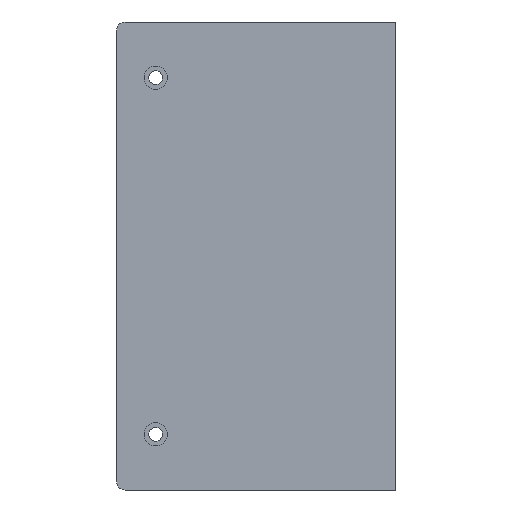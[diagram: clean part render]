
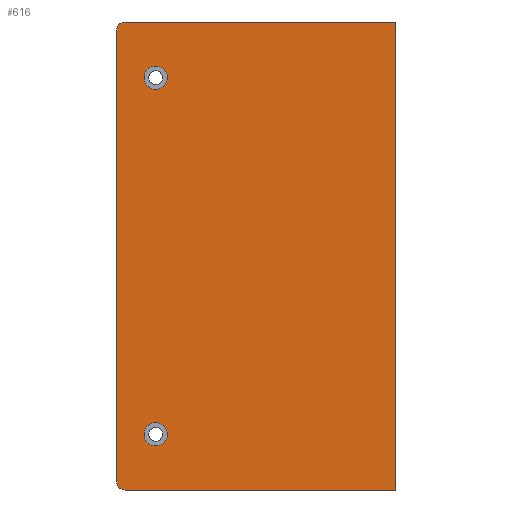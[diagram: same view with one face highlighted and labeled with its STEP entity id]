
A CAD part, left-side view. The second image highlights one B-rep face of the part: STEP entity #616.
In plain terms, the highlighted planar face has unit normal (-1, 0, 0).
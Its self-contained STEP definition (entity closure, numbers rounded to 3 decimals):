
#93=FACE_BOUND('',#172,.T.);
#94=FACE_BOUND('',#173,.T.);
#108=PLANE('',#690);
#135=FACE_OUTER_BOUND('',#171,.T.);
#171=EDGE_LOOP('',(#498,#499,#500,#501,#502,#503));
#172=EDGE_LOOP('',(#504));
#173=EDGE_LOOP('',(#505));
#217=LINE('',#981,#253);
#222=LINE('',#1000,#258);
#225=LINE('',#1005,#261);
#226=LINE('',#1007,#262);
#253=VECTOR('',#799,10.);
#258=VECTOR('',#818,10.);
#261=VECTOR('',#823,10.);
#262=VECTOR('',#824,10.);
#276=CIRCLE('',#660,2.1);
#278=CIRCLE('',#663,2.1);
#292=CIRCLE('',#688,1.5);
#293=CIRCLE('',#691,1.5);
#317=VERTEX_POINT('',#925);
#319=VERTEX_POINT('',#931);
#334=VERTEX_POINT('',#978);
#335=VERTEX_POINT('',#980);
#340=VERTEX_POINT('',#993);
#341=VERTEX_POINT('',#995);
#342=VERTEX_POINT('',#999);
#344=VERTEX_POINT('',#1006);
#366=EDGE_CURVE('',#317,#317,#276,.T.);
#369=EDGE_CURVE('',#319,#319,#278,.T.);
#392=EDGE_CURVE('',#335,#334,#217,.T.);
#399=EDGE_CURVE('',#340,#341,#292,.T.);
#401=EDGE_CURVE('',#341,#342,#222,.T.);
#404=EDGE_CURVE('',#335,#340,#225,.T.);
#405=EDGE_CURVE('',#344,#334,#226,.T.);
#406=EDGE_CURVE('',#342,#344,#293,.T.);
#498=ORIENTED_EDGE('',*,*,#399,.F.);
#499=ORIENTED_EDGE('',*,*,#404,.F.);
#500=ORIENTED_EDGE('',*,*,#392,.T.);
#501=ORIENTED_EDGE('',*,*,#405,.F.);
#502=ORIENTED_EDGE('',*,*,#406,.F.);
#503=ORIENTED_EDGE('',*,*,#401,.F.);
#504=ORIENTED_EDGE('',*,*,#366,.T.);
#505=ORIENTED_EDGE('',*,*,#369,.T.);
#616=ADVANCED_FACE('',(#135,#93,#94),#108,.T.);
#660=AXIS2_PLACEMENT_3D('',#927,#740,#741);
#663=AXIS2_PLACEMENT_3D('',#933,#747,#748);
#688=AXIS2_PLACEMENT_3D('',#996,#813,#814);
#690=AXIS2_PLACEMENT_3D('',#1004,#821,#822);
#691=AXIS2_PLACEMENT_3D('',#1008,#825,#826);
#740=DIRECTION('center_axis',(1.,0.,0.));
#741=DIRECTION('ref_axis',(0.,0.,-1.));
#747=DIRECTION('center_axis',(1.,0.,0.));
#748=DIRECTION('ref_axis',(0.,0.,-1.));
#799=DIRECTION('',(0.,0.,1.));
#813=DIRECTION('center_axis',(1.,0.,0.));
#814=DIRECTION('ref_axis',(0.,0.707,-0.707));
#818=DIRECTION('',(0.,0.,1.));
#821=DIRECTION('center_axis',(-1.,0.,0.));
#822=DIRECTION('ref_axis',(0.,-1.,0.));
#823=DIRECTION('',(0.,1.,0.));
#824=DIRECTION('',(0.,-1.,0.));
#825=DIRECTION('center_axis',(1.,0.,0.));
#826=DIRECTION('ref_axis',(0.,0.707,0.707));
#925=CARTESIAN_POINT('',(0.,43.,-29.9));
#927=CARTESIAN_POINT('Origin',(0.,43.,-32.));
#931=CARTESIAN_POINT('',(0.,43.,34.1));
#933=CARTESIAN_POINT('Origin',(0.,43.,32.));
#978=CARTESIAN_POINT('',(0.,0.,42.));
#980=CARTESIAN_POINT('',(0.,0.,-42.));
#981=CARTESIAN_POINT('',(0.,0.,0.));
#993=CARTESIAN_POINT('',(0.,48.5,-42.));
#995=CARTESIAN_POINT('',(0.,50.,-40.5));
#996=CARTESIAN_POINT('Origin',(0.,48.5,-40.5));
#999=CARTESIAN_POINT('',(0.,50.,40.5));
#1000=CARTESIAN_POINT('',(0.,50.,0.));
#1004=CARTESIAN_POINT('Origin',(0.,50.,0.));
#1005=CARTESIAN_POINT('',(0.,50.,-42.));
#1006=CARTESIAN_POINT('',(0.,48.5,42.));
#1007=CARTESIAN_POINT('',(0.,50.,42.));
#1008=CARTESIAN_POINT('Origin',(0.,48.5,40.5));
